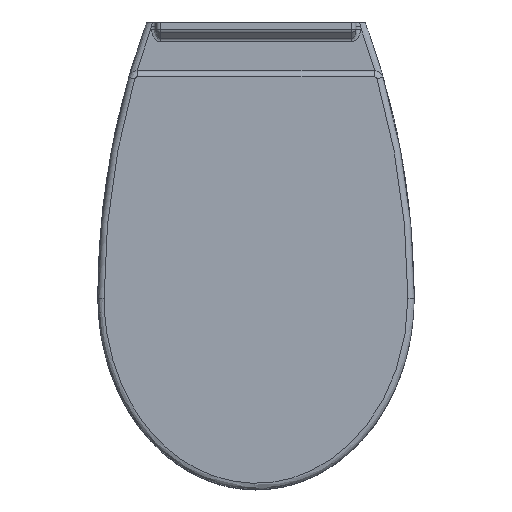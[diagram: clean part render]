
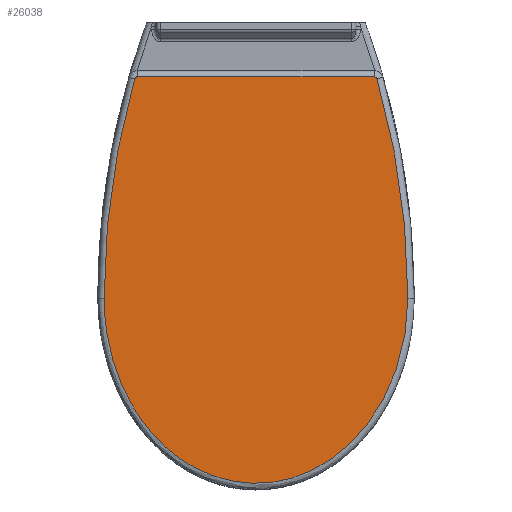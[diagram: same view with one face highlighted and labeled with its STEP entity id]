
A CAD part, top view. The second image highlights one B-rep face of the part: STEP entity #26038.
In plain terms, the highlighted planar face has unit normal (0, 0, 1).
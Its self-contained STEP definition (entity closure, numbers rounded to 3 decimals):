
#25920=CARTESIAN_POINT('',(-243.089,107.634,15.0));
#25921=DIRECTION('',(0.0,0.0,1.0));
#25922=DIRECTION('',(1.0,0.0,0.0));
#25923=AXIS2_PLACEMENT_3D('',#25920,#25921,#25922);
#25924=PLANE('',#25923);
#25925=CARTESIAN_POINT('',(-41.995,-28.521,15.0));
#25926=VERTEX_POINT('',#25925);
#25927=CARTESIAN_POINT('',(-289.197,-63.436,15.0));
#25928=VERTEX_POINT('',#25927);
#25929=CARTESIAN_POINT('',(-288.285,822.684,15.0));
#25930=DIRECTION('',(0.0,0.0,-1.));
#25931=DIRECTION('',(0.14,-0.99,0.0));
#25932=AXIS2_PLACEMENT_3D('',#25929,#25930,#25931);
#25933=CIRCLE('',#25932,886.12);
#25934=EDGE_CURVE('',#25926,#25928,#25933,.T.);
#25935=ORIENTED_EDGE('',*,*,#25934,.F.);
#25936=CARTESIAN_POINT('',(-39.829,-25.639,15.0));
#25937=VERTEX_POINT('',#25936);
#25938=CARTESIAN_POINT('',(-42.829,-25.639,15.0));
#25939=DIRECTION('',(0.0,0.0,-1.));
#25940=DIRECTION('',(0.799,-0.601,0.0));
#25941=AXIS2_PLACEMENT_3D('',#25938,#25939,#25940);
#25942=CIRCLE('',#25941,3.);
#25943=EDGE_CURVE('',#25937,#25926,#25942,.T.);
#25944=ORIENTED_EDGE('',*,*,#25943,.F.);
#25945=CARTESIAN_POINT('',(-39.829,241.152,15.0));
#25946=VERTEX_POINT('',#25945);
#25947=CARTESIAN_POINT('',(-39.829,241.152,15.0));
#25948=DIRECTION('',(0.0,-1.0,0.0));
#25949=VECTOR('',#25948,266.791);
#25950=LINE('',#25947,#25949);
#25951=EDGE_CURVE('',#25946,#25937,#25950,.T.);
#25952=ORIENTED_EDGE('',*,*,#25951,.F.);
#25953=CARTESIAN_POINT('',(-42.005,244.036,15.0));
#25954=VERTEX_POINT('',#25953);
#25955=CARTESIAN_POINT('',(-42.829,241.152,15.0));
#25956=DIRECTION('',(0.0,0.0,-1.0));
#25957=DIRECTION('',(0.798,0.602,0.0));
#25958=AXIS2_PLACEMENT_3D('',#25955,#25956,#25957);
#25959=CIRCLE('',#25958,3.);
#25960=EDGE_CURVE('',#25954,#25946,#25959,.T.);
#25961=ORIENTED_EDGE('',*,*,#25960,.F.);
#25962=CARTESIAN_POINT('',(-289.193,278.518,15.0));
#25963=VERTEX_POINT('',#25962);
#25964=CARTESIAN_POINT('',(-288.278,-618.16,15.0));
#25965=DIRECTION('',(0.0,0.0,-1.));
#25966=DIRECTION('',(0.138,0.99,0.0));
#25967=AXIS2_PLACEMENT_3D('',#25964,#25965,#25966);
#25968=CIRCLE('',#25967,896.678);
#25969=EDGE_CURVE('',#25963,#25954,#25968,.T.);
#25970=ORIENTED_EDGE('',*,*,#25969,.F.);
#25971=CARTESIAN_POINT('',(-289.197,-63.436,15.0));
#25972=CARTESIAN_POINT('',(-296.246,-63.428,15.0));
#25973=CARTESIAN_POINT('',(-310.407,-62.832,15.));
#25974=CARTESIAN_POINT('',(-335.138,-59.697,15.));
#25975=CARTESIAN_POINT('',(-352.493,-55.563,15.0));
#25976=CARTESIAN_POINT('',(-362.658,-52.413,15.0));
#25977=CARTESIAN_POINT('',(-366.855,-51.113,15.0));
#25978=CARTESIAN_POINT('',(-373.086,-48.992,15.));
#25979=CARTESIAN_POINT('',(-380.734,-46.025,15.));
#25980=CARTESIAN_POINT('',(-384.762,-44.346,15.));
#25981=CARTESIAN_POINT('',(-394.79,-39.996,15.));
#25982=CARTESIAN_POINT('',(-407.074,-33.744,15.));
#25983=CARTESIAN_POINT('',(-425.709,-21.945,15.));
#25984=CARTESIAN_POINT('',(-436.143,-13.817,15.0));
#25985=CARTESIAN_POINT('',(-442.669,-7.973,15.0));
#25986=CARTESIAN_POINT('',(-444.445,-6.382,15.0));
#25987=CARTESIAN_POINT('',(-447.278,-3.743,15.));
#25988=CARTESIAN_POINT('',(-450.649,-0.394,15.));
#25989=CARTESIAN_POINT('',(-455.615,4.739,15.));
#25990=CARTESIAN_POINT('',(-465.7,16.197,15.));
#25991=CARTESIAN_POINT('',(-475.209,30.158,15.));
#25992=CARTESIAN_POINT('',(-481.915,42.843,15.));
#25993=CARTESIAN_POINT('',(-484.968,49.316,15.));
#25994=CARTESIAN_POINT('',(-487.705,55.897,15.));
#25995=CARTESIAN_POINT('',(-490.948,64.881,15.));
#25996=CARTESIAN_POINT('',(-492.889,71.822,15.0));
#25997=CARTESIAN_POINT('',(-493.943,76.506,15.0));
#25998=CARTESIAN_POINT('',(-494.987,81.153,15.0));
#25999=CARTESIAN_POINT('',(-496.574,90.563,15.));
#26000=CARTESIAN_POINT('',(-497.25,101.23,15.));
#26001=CARTESIAN_POINT('',(-497.263,108.304,15.));
#26002=CARTESIAN_POINT('',(-497.155,113.023,15.));
#26003=CARTESIAN_POINT('',(-496.663,121.299,15.));
#26004=CARTESIAN_POINT('',(-494.474,137.815,15.));
#26005=CARTESIAN_POINT('',(-490.245,152.774,15.));
#26006=CARTESIAN_POINT('',(-485.83,163.702,15.));
#26007=CARTESIAN_POINT('',(-483.956,168.036,15.));
#26008=CARTESIAN_POINT('',(-482.428,171.239,15.0));
#26009=CARTESIAN_POINT('',(-481.356,173.351,15.0));
#26010=CARTESIAN_POINT('',(-479.269,177.458,15.0));
#26011=CARTESIAN_POINT('',(-474.715,185.501,15.));
#26012=CARTESIAN_POINT('',(-466.86,196.951,15.));
#26013=CARTESIAN_POINT('',(-459.574,205.902,15.));
#26014=CARTESIAN_POINT('',(-453.385,212.667,15.0));
#26015=CARTESIAN_POINT('',(-446.925,219.214,15.));
#26016=CARTESIAN_POINT('',(-438.381,226.964,15.));
#26017=CARTESIAN_POINT('',(-427.464,235.531,15.));
#26018=CARTESIAN_POINT('',(-419.808,240.723,15.0));
#26019=CARTESIAN_POINT('',(-415.902,243.182,15.0));
#26020=CARTESIAN_POINT('',(-412.045,245.611,15.0));
#26021=CARTESIAN_POINT('',(-406.148,249.062,15.));
#26022=CARTESIAN_POINT('',(-398.125,253.266,15.));
#26023=CARTESIAN_POINT('',(-385.886,259.205,15.));
#26024=CARTESIAN_POINT('',(-371.049,265.057,15.));
#26025=CARTESIAN_POINT('',(-356.889,269.267,15.));
#26026=CARTESIAN_POINT('',(-348.11,271.546,15.));
#26027=CARTESIAN_POINT('',(-339.283,273.576,15.0));
#26028=CARTESIAN_POINT('',(-331.46,274.982,15.0));
#26029=CARTESIAN_POINT('',(-326.969,275.664,15.0));
#26030=CARTESIAN_POINT('',(-314.467,277.562,15.0));
#26031=CARTESIAN_POINT('',(-301.802,278.505,15.0));
#26032=CARTESIAN_POINT('',(-289.193,278.518,15.0));
#26033=B_SPLINE_CURVE_WITH_KNOTS('',3,(#25971,#25972,#25973,#25974,#25975,#25976,#25977,#25978,#25979,#25980,#25981,#25982,#25983,#25984,#25985,#25986,#25987,#25988,#25989,#25990,#25991,#25992,#25993,#25994,#25995,#25996,#25997,#25998,#25999,#26000,#26001,#26002,#26003,#26004,#26005,#26006,#26007,#26008,#26009,#26010,#26011,#26012,#26013,#26014,#26015,#26016,#26017,#26018,#26019,#26020,#26021,#26022,#26023,#26024,#26025,#26026,#26027,#26028,#26029,#26030,#26031,#26032),.UNSPECIFIED.,.F.,.U.,(4,1,1,3,1,1,1,1,1,1,3,1,1,1,1,1,1,1,1,1,3,1,1,1,1,1,1,1,1,1,3,1,1,1,1,1,1,1,3,1,1,1,1,1,1,1,3,4),(0.,2.115,4.229,7.401,8.711,9.366,9.857,10.02,12.639,13.949,16.568,17.281,17.727,17.994,19.42,22.271,22.984,23.697,24.41,25.123,26.549,27.963,29.378,29.731,30.085,30.792,32.207,35.035,35.389,35.743,36.45,37.826,39.201,40.577,41.265,41.953,43.329,44.704,46.08,47.439,48.118,48.797,51.514,52.873,53.212,54.231,55.59,59.373),.UNSPECIFIED.);
#26034=EDGE_CURVE('',#25928,#25963,#26033,.T.);
#26035=ORIENTED_EDGE('',*,*,#26034,.F.);
#26036=EDGE_LOOP('',(#25935,#25944,#25952,#25961,#25970,#26035));
#26037=FACE_OUTER_BOUND('',#26036,.T.);
#26038=ADVANCED_FACE('',(#26037),#25924,.T.);
